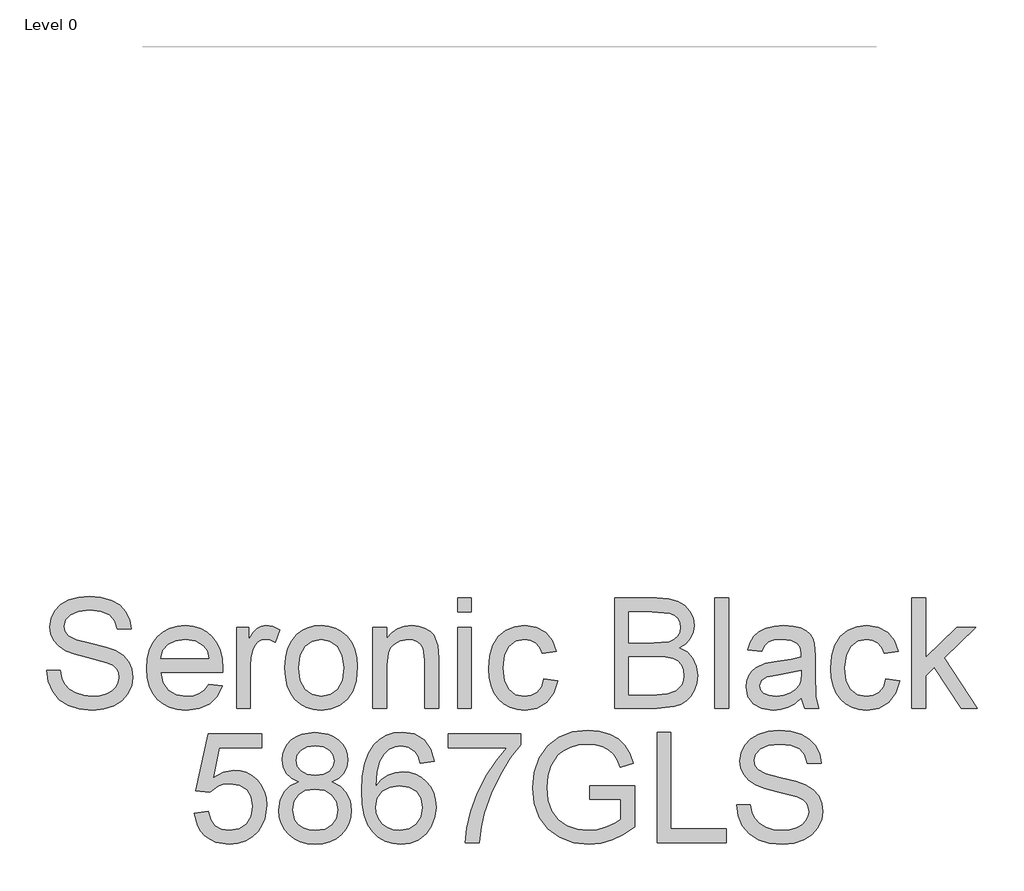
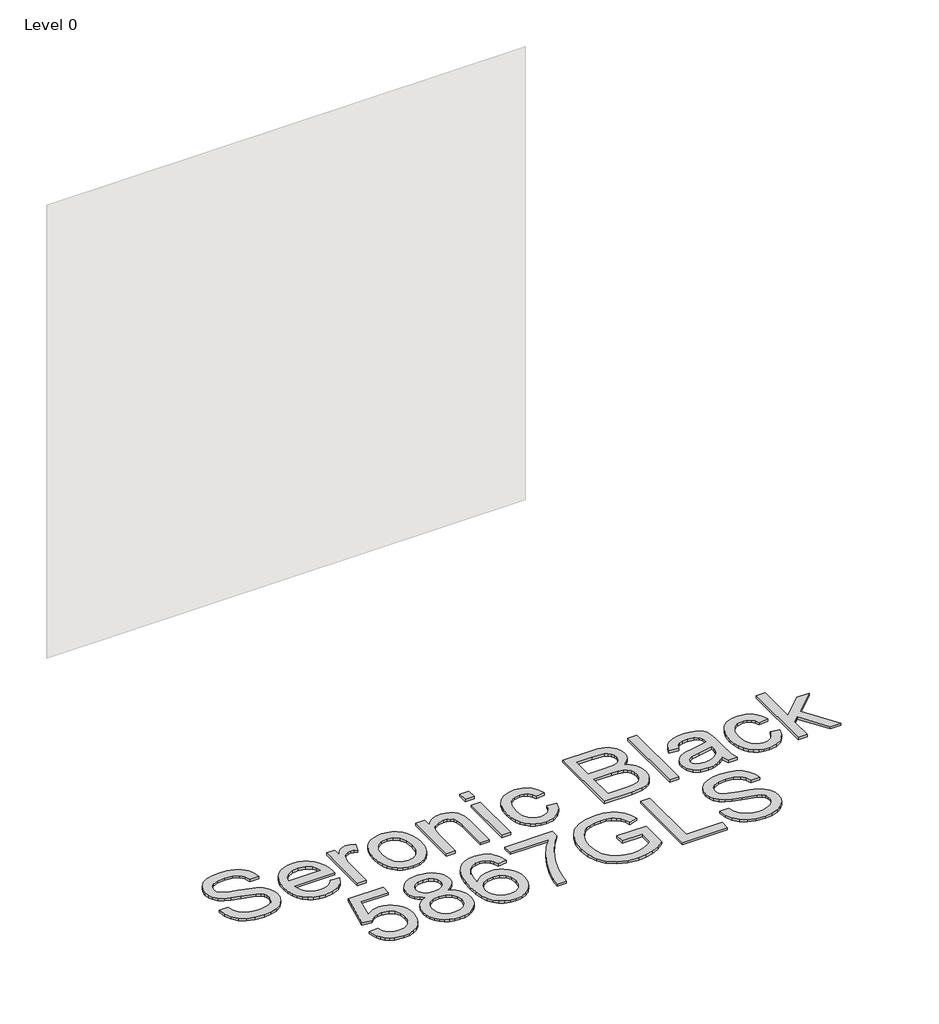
# One storey, part 2 of 29: 1 proxy.
"""IFC4 building model written with IfcOpenShell, lengths in millimetres."""

from ifc_helpers import new_model, si_unit, origin, origin_with_axes, place, context, project, spatial, polyline, outline, extrude, element, save

model = new_model("IFC4")

# Units and contexts
model_context = context("Model", 3, world=origin())
ifc_project = project(units=[si_unit("LENGTHUNIT", "METRE", prefix="MILLI")], contexts=[model_context])

# Site, building, storey
site = spatial("IfcSite", under=ifc_project)
building = spatial("IfcBuilding", under=site)
storey = spatial("IfcBuildingStorey", under=building, Name="Level 0", Elevation=0.0)

# Proxy
placement = place(None, origin())
element("IfcBuildingElementProxy", 1, Name="300mm Arial", ObjectType="300mm Arial", at=placement, inside=storey, context=model_context, shape_type="SweptSolid", body=[
    extrude(outline(polyline([(-5712.6404526, -42292.9348053), (-5674.9693363, -42292.9348053), (-5670.6467228, -42313.8396997), (-5662.8292304, -42330.6427098), (-5650.6339423, -42343.9784321), (-5633.1779416, -42354.4814631), (-5611.8407859, -42361.296477), (-5588.0020326, -42363.5681484), (-5567.0143648, -42361.8483), (-5548.6386591, -42356.688755), (-5533.7486354, -42348.5217748), (-5523.2180132, -42337.7796205), (-5516.9548223, -42325.4463766), (-5514.867092, -42312.5061274), (-5516.4305904, -42299.896972), (-5521.1210859, -42288.9984679), (-5530.6492295, -42279.7002505), (-5546.7256727, -42271.8919552), (-5601.5768782, -42257.5077691), (-5637.5833285, -42247.9888225), (-5660.6219384, -42238.9297284), (-5679.3747231, -42226.2561937), (-5692.6644602, -42210.8971204), (-5700.5831202, -42193.1836023), (-5703.2226735, -42173.4467332), (-5699.9577208, -42151.3830106), (-5690.1628627, -42130.80921), (-5674.0956165, -42113.3716034), (-5652.0134998, -42100.7164628), (-5625.507602, -42093.018532), (-5596.1690129, -42090.4525551), (-5564.3840085, -42093.1380937), (-5536.5721297, -42101.1947094), (-5513.7266578, -42114.4568553), (-5496.8408742, -42132.7589846), (-5486.1539022, -42154.960663), (-5481.9048652, -42179.9214564), (-5519.5759815, -42179.9214564), (-5526.492163, -42157.4438665), (-5540.9131372, -42141.2202705), (-5563.4459094, -42131.3978212), (-5594.6974849, -42128.1236714), (-5626.6848244, -42131.361033), (-5648.6289854, -42141.0731177), (-5661.3209142, -42155.3653332), (-5665.5515572, -42172.3430873), (-5662.5533189, -42186.8192438), (-5653.5586041, -42198.4627089), (-5632.2950248, -42208.8737694), (-5592.0487345, -42219.505559), (-5550.5148573, -42229.6039198), (-5525.388517, -42238.4146936), (-5503.9134055, -42252.0815097), (-5488.9314113, -42268.9488992), (-5480.1298346, -42288.832921), (-5477.1959756, -42311.5496342), (-5480.571293, -42334.7721852), (-5490.6972449, -42356.6151786), (-5507.1599642, -42375.4139486), (-5529.5455836, -42389.503829), (-5556.4653486, -42398.3054057), (-5586.5305046, -42401.2392647), (-5623.4382658, -42398.0754795), (-5653.8161215, -42388.584124), (-5678.0135598, -42372.72841), (-5696.3800684, -42350.4715493), (-5708.1706863, -42323.3586463), (-5712.6404526, -42292.9348053)])), origin_with_axes(), (0.0, 0.0, 1.0), 10.0),
    extrude(outline(polyline([(-5270.4462944, -42330.6059216), (-5233.510942, -42335.3148111), (-5246.8190732, -42363.1450841), (-5268.0550614, -42383.9488109), (-5296.74066, -42396.9166512), (-5332.3976223, -42401.2392647), (-5355.7719246, -42399.3745628), (-5376.5986441, -42393.7804572), (-5394.8777807, -42384.4569479), (-5410.6093345, -42371.4040349), (-5423.2598766, -42354.9850016), (-5432.2959781, -42335.5631315), (-5437.717639, -42313.1384246), (-5439.5248593, -42287.7108809), (-5437.6992449, -42261.4211139), (-5432.2224017, -42238.2491467), (-5423.0943297, -42218.1949794), (-5410.3150289, -42201.2586121), (-5394.6248618, -42187.8033281), (-5376.764191, -42178.192411), (-5356.7330163, -42172.4258607), (-5334.5313379, -42170.5036773), (-5313.0447301, -42172.4212622), (-5293.613663, -42178.1740169), (-5276.2381365, -42187.7619414), (-5260.9181507, -42201.1850357), (-5248.4124621, -42218.0846148), (-5239.4798274, -42238.1019939), (-5234.1202466, -42261.2371729), (-5232.3337197, -42287.4901518), (-5232.5544489, -42297.6436948), (-5401.853743, -42297.6436948), (-5395.3330347, -42325.8418497), (-5380.1854935, -42346.5720002), (-5358.324106, -42359.3191113), (-5331.6618584, -42363.5681484), (-5311.6122896, -42361.5999797), (-5294.726506, -42355.6954737), (-5281.0045076, -42345.4867483), (-5270.4462944, -42330.6059216)]), holes=[polyline([(-5401.853743, -42259.9725785), (-5270.004836, -42259.9725785), (-5275.1000016, -42240.0701626), (-5285.0879978, -42225.8331294), (-5307.0505529, -42212.5893775), (-5334.6784907, -42208.1747936), (-5360.0715454, -42211.6972637), (-5381.0684103, -42222.264674), (-5395.6641285, -42238.7365903), (-5401.853743, -42259.9725785)])]), origin_with_axes(), (0.0, 0.0, 1.0), 10.0),
    extrude(outline(polyline([(-5194.6626034, -42396.5303751), (-5194.6626034, -42175.2125668), (-5161.7003766, -42175.2125668), (-5161.7003766, -42207.9540644), (-5149.5234825, -42188.9713534), (-5138.3030817, -42177.7877408), (-5127.0458926, -42172.3246932), (-5114.758634, -42170.5036773), (-5095.9966522, -42173.409945), (-5076.9403649, -42182.1287483), (-5089.5219291, -42215.9003155), (-5102.765681, -42210.1061741), (-5116.0094328, -42208.1747936), (-5127.2574248, -42210.0325977), (-5137.3098003, -42215.6060099), (-5145.4307953, -42224.471966), (-5150.8846459, -42236.2074016), (-5155.4647768, -42257.2502517), (-5156.991487, -42280.2060882), (-5156.991487, -42396.5303751), (-5194.6626034, -42396.5303751)])), origin_with_axes(), (0.0, 0.0, 1.0), 10.0),
    extrude(outline(polyline([(-5062.8136963, -42285.871471), (-5060.7765497, -42257.208865), (-5054.6651101, -42232.5101876), (-5044.4793773, -42211.7754386), (-5030.2193515, -42195.0046182), (-5015.8627566, -42184.2854565), (-5000.0162397, -42176.6289125), (-4982.6798007, -42172.0349861), (-4963.8534396, -42170.5036773), (-4943.0704061, -42172.3683791), (-4924.2785339, -42177.9624847), (-4907.4778231, -42187.2859941), (-4892.6682735, -42200.3389071), (-4880.5810507, -42216.6797655), (-4871.9473201, -42235.8671108), (-4866.7670818, -42257.900943), (-4865.0403357, -42282.7812622), (-4868.0937562, -42320.8386546), (-4877.2540179, -42349.8093617), (-4892.2544063, -42371.5052024), (-4912.8282068, -42387.7379954), (-4937.2647684, -42397.8639474), (-4963.8534396, -42401.2392647), (-4984.9399757, -42399.3814606), (-5003.9065918, -42393.8080484), (-5020.7532879, -42384.519028), (-5035.480064, -42371.5143994), (-5047.4385281, -42355.014892), (-5055.9802882, -42335.2412347), (-5061.1053443, -42312.1934277), (-5062.8136963, -42285.871471)]), holes=[polyline([(-5025.14258, -42285.7978946), (-5020.7831783, -42319.8913585), (-5007.7049734, -42344.1807672), (-4988.0232867, -42358.7213031), (-4963.8534396, -42363.5681484), (-4939.7939571, -42358.6937119), (-4920.1490586, -42344.0704026), (-4907.0708536, -42319.4590971), (-4902.711452, -42284.6206722), (-4907.0984448, -42251.5204897), (-4920.2594232, -42227.5621747), (-4939.9319128, -42213.0216389), (-4963.8534396, -42208.1747936), (-4988.0232867, -42213.0032448), (-5007.7049734, -42227.4885983), (-5020.7831783, -42251.7228248), (-5025.14258, -42285.7978946)])]), origin_with_axes(), (0.0, 0.0, 1.0), 10.0),
    extrude(outline(polyline([(-4822.6603298, -42396.5303751), (-4822.6603298, -42175.2125668), (-4784.9892135, -42175.2125668), (-4784.9892135, -42206.1146544), (-4771.9018115, -42190.5348519), (-4756.1840533, -42179.4064216), (-4737.8359388, -42172.7293634), (-4716.857468, -42170.5036773), (-4698.2886243, -42172.297102), (-4681.2832791, -42177.6773762), (-4667.1014282, -42185.9731152), (-4657.0030674, -42196.5129343), (-4645.7090902, -42224.2144486), (-4643.7225274, -42260.6347661), (-4643.7225274, -42396.5303751), (-4681.3936437, -42396.5303751), (-4681.3936437, -42265.7115376), (-4685.7346512, -42232.3814289), (-4691.7403248, -42222.4578121), (-4701.0753304, -42214.7598813), (-4713.0406923, -42209.8210655), (-4726.9374347, -42208.1747936), (-4749.0011573, -42211.8720076), (-4767.8091243, -42222.9636498), (-4775.3254134, -42232.0181454), (-4780.6941912, -42244.392776), (-4784.9892135, -42279.1024423), (-4784.9892135, -42396.5303751), (-4822.6603298, -42396.5303751)])), origin_with_axes(), (0.0, 0.0, 1.0), 10.0),
    extrude(outline(polyline([(-4591.9247425, -42132.832561), (-4591.9247425, -42095.1614447), (-4554.2536261, -42095.1614447), (-4554.2536261, -42132.832561), (-4591.9247425, -42132.832561)])), origin_with_axes(), (0.0, 0.0, 1.0), 10.0),
    extrude(outline(polyline([(-4591.9247425, -42396.5303751), (-4591.9247425, -42175.2125668), (-4554.2536261, -42175.2125668), (-4554.2536261, -42396.5303751), (-4591.9247425, -42396.5303751)])), origin_with_axes(), (0.0, 0.0, 1.0), 10.0),
    extrude(outline(polyline([(-4356.4802655, -42316.479253), (-4318.8091492, -42321.1881425), (-4329.3121802, -42354.6929952), (-4349.0490492, -42380.0124735), (-4376.1619523, -42395.9325669), (-4408.7930853, -42401.2392647), (-4429.9210081, -42399.3883584), (-4448.8646316, -42393.8356395), (-4465.6239557, -42384.5811081), (-4480.1989805, -42371.624764), (-4491.9964963, -42355.2103293), (-4500.4232932, -42335.5815256), (-4505.4793714, -42312.7383529), (-4507.1647308, -42286.6808114), (-4504.2860542, -42253.1575646), (-4495.6500243, -42224.104084), (-4481.1186855, -42200.6424097), (-4460.554082, -42183.8945819), (-4435.9519736, -42173.8514034), (-4409.30812, -42170.5036773), (-4377.4771304, -42175.1022022), (-4352.0288934, -42188.897777), (-4333.7727494, -42211.1546378), (-4323.5180388, -42241.1370204), (-4361.1891551, -42245.8459099), (-4368.0225631, -42229.4107818), (-4378.6635499, -42217.6293609), (-4392.523504, -42210.5384354), (-4409.0138145, -42208.1747936), (-4433.3584055, -42212.8285008), (-4452.6814073, -42226.7896225), (-4465.2905627, -42250.8123168), (-4469.4936145, -42285.6507418), (-4465.3825332, -42320.9582163), (-4453.0492893, -42345.063684), (-4434.0757754, -42358.9420323), (-4410.043884, -42363.5681484), (-4390.5369412, -42360.6802747), (-4374.5432715, -42352.0166537), (-4362.9090034, -42337.3565562), (-4356.4802655, -42316.479253)])), origin_with_axes(), (0.0, 0.0, 1.0), 10.0),
    extrude(outline(polyline([(-4163.4157945, -42396.5303751), (-4163.4157945, -42095.1614447), (-4048.4158828, -42095.1614447), (-4016.7872282, -42097.3779337), (-3992.0931493, -42104.0274008), (-3973.1656207, -42115.2753928), (-3958.836617, -42131.2874566), (-3949.814311, -42150.1230148), (-3946.8068757, -42169.8414897), (-3949.3360644, -42187.9872691), (-3956.9236306, -42205.0477966), (-3969.6247565, -42219.9746086), (-3987.4946244, -42231.7192413), (-3966.1482716, -42242.8660657), (-3950.3753311, -42259.8254257), (-3940.6356552, -42281.4752811), (-3937.3890966, -42306.6935919), (-3939.6055857, -42327.7088509), (-3946.2550527, -42347.1973996), (-3956.1786695, -42363.7704835), (-3968.2176078, -42376.039348), (-3982.9604788, -42384.9236982), (-4000.9958936, -42391.343239), (-4049.2987996, -42396.5303751), (-4163.4157945, -42396.5303751)]), holes=[polyline([(-4125.7446782, -42217.5925727), (-4056.9507451, -42217.5925727), (-4016.7780312, -42214.3552111), (-4002.7157419, -42208.7726018), (-3992.6081841, -42200.4124835), (-3986.51054, -42189.4036148), (-3984.477992, -42175.8747544), (-3986.3725843, -42162.7413672), (-3992.0563611, -42151.3002371), (-4001.2718051, -42142.3699017), (-4013.7613988, -42136.7688983), (-4062.1746694, -42132.832561), (-4125.7446782, -42132.832561), (-4125.7446782, -42217.5925727)]), polyline([(-4125.7446782, -42358.8592588), (-4048.4894592, -42358.8592588), (-4020.5304275, -42357.3877308), (-3996.8756153, -42349.1839623), (-3981.2038423, -42332.4453316), (-3976.5961203, -42320.6179254), (-3975.0602129, -42307.0614739), (-3976.8628347, -42291.3161245), (-3982.2707, -42277.7780671), (-3991.7160703, -42267.1922627), (-4005.6312067, -42260.3036723), (-4025.3404846, -42256.5236848), (-4052.1682791, -42255.263689), (-4125.7446782, -42255.263689), (-4125.7446782, -42358.8592588)])]), origin_with_axes(), (0.0, 0.0, 1.0), 10.0),
    extrude(outline(polyline([(-3890.3002013, -42396.5303751), (-3890.3002013, -42095.1614447), (-3852.6290849, -42095.1614447), (-3852.6290849, -42396.5303751), (-3890.3002013, -42396.5303751)])), origin_with_axes(), (0.0, 0.0, 1.0), 10.0),
    extrude(outline(polyline([(-3654.8557243, -42368.2770379), (-3672.854351, -42383.7096876), (-3691.3864065, -42393.8080484), (-3710.8749552, -42399.3814606), (-3731.7430613, -42401.2392647), (-3763.2245631, -42396.7694984), (-3786.447114, -42383.3601997), (-3800.7669207, -42362.9979313), (-3805.5401896, -42337.6692559), (-3803.7375678, -42322.0526652), (-3798.3297025, -42307.8708143), (-3789.9879782, -42295.7307084), (-3779.3837797, -42286.239353), (-3753.0066407, -42273.8785179), (-3720.4122959, -42268.2131352), (-3681.895051, -42262.2534469), (-3655.0764535, -42255.263689), (-3654.8557243, -42246.8759795), (-3657.4492924, -42230.0637723), (-3665.2299966, -42219.0641006), (-3682.630815, -42210.8971204), (-3706.8742385, -42208.1747936), (-3729.3150402, -42209.9866124), (-3744.9868132, -42215.4220689), (-3755.6737851, -42225.4744444), (-3763.1601837, -42241.1370204), (-3800.8313, -42236.4281308), (-3794.2921976, -42215.8267391), (-3784.5341276, -42199.6399313), (-3770.6465823, -42187.2607022), (-3751.7190537, -42178.0820464), (-3728.5700791, -42172.3982696), (-3702.0181961, -42170.5036773), (-3676.551565, -42172.1775404), (-3656.3640405, -42177.1991296), (-3641.142923, -42184.7499075), (-3630.5755127, -42194.0113368), (-3623.5673607, -42205.4616639), (-3619.024018, -42219.5791354), (-3617.184608, -42252.5413622), (-3617.184608, -42299.4095284), (-3615.2716217, -42364.8557353), (-3607.766829, -42396.5303751), (-3645.4379453, -42396.5303751), (-3654.8557243, -42368.2770379)]), holes=[polyline([(-3654.8557243, -42292.9348053), (-3715.6298299, -42304.4862999), (-3748.0402337, -42310.593141), (-3762.7187253, -42320.5259549), (-3767.8690733, -42335.0205055), (-3765.063973, -42346.2225123), (-3756.6486724, -42355.4011681), (-3742.8071123, -42361.5264033), (-3723.7232338, -42363.5681484), (-3703.4897241, -42361.3148711), (-3685.6106591, -42354.5550395), (-3671.1161085, -42344.5946345), (-3661.0361419, -42332.7396372), (-3656.5663756, -42320.5259549), (-3655.0764535, -42303.6033831), (-3654.8557243, -42292.9348053)])]), origin_with_axes(), (0.0, 0.0, 1.0), 10.0),
    extrude(outline(polyline([(-3424.120137, -42316.479253), (-3386.4490207, -42321.1881425), (-3396.9520516, -42354.6929952), (-3416.6889207, -42380.0124735), (-3443.8018237, -42395.9325669), (-3476.4329567, -42401.2392647), (-3497.5608795, -42399.3883584), (-3516.504503, -42393.8356395), (-3533.2638271, -42384.5811081), (-3547.8388519, -42371.624764), (-3559.6363677, -42355.2103293), (-3568.0631646, -42335.5815256), (-3573.1192428, -42312.7383529), (-3574.8046022, -42286.6808114), (-3571.9259256, -42253.1575646), (-3563.2898957, -42224.104084), (-3548.7585569, -42200.6424097), (-3528.1939534, -42183.8945819), (-3503.591845, -42173.8514034), (-3476.9479915, -42170.5036773), (-3445.1170018, -42175.1022022), (-3419.6687648, -42188.897777), (-3401.4126208, -42211.1546378), (-3391.1579102, -42241.1370204), (-3428.8290265, -42245.8459099), (-3435.6624346, -42229.4107818), (-3446.3034213, -42217.6293609), (-3460.1633754, -42210.5384354), (-3476.6536859, -42208.1747936), (-3500.9982769, -42212.8285008), (-3520.3212787, -42226.7896225), (-3532.9304341, -42250.8123168), (-3537.1334859, -42285.6507418), (-3533.0224046, -42320.9582163), (-3520.6891607, -42345.063684), (-3501.7156468, -42358.9420323), (-3477.6837555, -42363.5681484), (-3458.1768127, -42360.6802747), (-3442.1831429, -42352.0166537), (-3430.5488748, -42337.3565562), (-3424.120137, -42316.479253)])), origin_with_axes(), (0.0, 0.0, 1.0), 10.0),
    extrude(outline(polyline([(-3353.4867939, -42396.5303751), (-3353.4867939, -42095.1614447), (-3315.8156776, -42095.1614447), (-3315.8156776, -42257.1030989), (-3231.3499715, -42175.2125668), (-3179.257881, -42175.2125668), (-3264.7536567, -42258.1331685), (-3174.5489914, -42396.5303751), (-3218.5476781, -42396.5303751), (-3291.7561951, -42284.3263666), (-3315.8156776, -42307.6500851), (-3315.8156776, -42396.5303751), (-3353.4867939, -42396.5303751)])), origin_with_axes(), (0.0, 0.0, 1.0), 10.0),
    extrude(outline(polyline([(-5310.030397, -42682.4037065), (-5272.3592807, -42677.694817), (-5265.4430992, -42700.3103626), (-5253.3765698, -42716.5063675), (-5236.2148747, -42726.2460433), (-5214.0131963, -42729.4926019), (-5187.0106579, -42724.9768504), (-5166.7771481, -42711.4295959), (-5154.1404016, -42690.414337), (-5149.9281527, -42663.494572), (-5153.8736871, -42638.1475025), (-5165.7102903, -42618.7601213), (-5185.5299328, -42606.4544686), (-5213.4245851, -42602.3525844), (-5231.6991232, -42603.9896592), (-5246.4971765, -42608.9008839), (-5267.6503912, -42625.897032), (-5305.3215075, -42621.1881425), (-5272.3592807, -42465.7947877), (-5126.383705, -42465.7947877), (-5126.383705, -42503.4659041), (-5241.8986515, -42503.4659041), (-5258.0118829, -42586.4600822), (-5231.101315, -42570.1261216), (-5202.90316, -42564.681468), (-5184.5573448, -42566.3691267), (-5167.7060502, -42571.4321027), (-5152.3492761, -42579.8703959), (-5138.4870227, -42591.6840065), (-5127.0114037, -42606.150966), (-5118.814533, -42622.5493059), (-5113.8964106, -42640.8790263), (-5112.2570364, -42661.1401272), (-5118.1615425, -42698.8112435), (-5125.542175, -42715.6050566), (-5135.8750605, -42731.0377063), (-5151.5284394, -42746.8428365), (-5169.7937805, -42758.1322152), (-5190.6710837, -42764.9058424), (-5214.1603491, -42767.1637182), (-5251.1600808, -42761.3603797), (-5266.8387515, -42754.1062066), (-5280.6366256, -42743.9503643), (-5292.1168431, -42731.3986905), (-5300.8425442, -42716.9570229), (-5310.030397, -42682.4037065)])), origin_with_axes(), (0.0, 0.0, 1.0), 10.0),
    extrude(outline(polyline([(-5024.406816, -42596.4664724), (-5044.5759464, -42586.5336586), (-5058.7302061, -42573.0691775), (-5067.0903245, -42556.3489409), (-5069.8770306, -42536.64886), (-5068.3595174, -42521.2851882), (-5063.8069777, -42507.1999063), (-5056.2194115, -42494.3930143), (-5045.5968189, -42482.8645123), (-5032.4496361, -42473.3363686), (-5017.2882994, -42466.5305517), (-4980.9231642, -42461.0858982), (-4944.3372997, -42466.6593104), (-4929.0104161, -42473.6260757), (-4915.6608982, -42483.3795471), (-4904.8451676, -42495.1333769), (-4897.1196457, -42508.1012172), (-4892.4843325, -42522.2830681), (-4890.9392281, -42537.6789296), (-4893.689146, -42556.744414), (-4901.9388998, -42573.1795421), (-4915.7804599, -42586.5612497), (-4935.3057968, -42596.4664724), (-4912.120034, -42608.4134402), (-4895.2434475, -42626.0073966), (-4884.9519487, -42648.4022131), (-4881.5214491, -42674.751761), (-4883.2229033, -42693.5413339), (-4888.327266, -42710.7674083), (-4896.8345371, -42726.4299843), (-4908.7447167, -42740.5290617), (-4923.4324054, -42752.1817239), (-4940.2722037, -42760.5050541), (-4959.2641117, -42765.4990522), (-4980.4081294, -42767.1637182), (-5001.552147, -42765.4921544), (-5020.544055, -42760.4774629), (-5037.3838534, -42752.1196439), (-5052.071542, -42740.4186971), (-5063.9817216, -42726.2207514), (-5072.4889928, -42710.3719352), (-5077.5933554, -42692.8722485), (-5079.2948097, -42673.7216914), (-5075.7263543, -42646.351271), (-5065.0209883, -42623.8368929), (-5047.7305345, -42606.9511093), (-5024.406816, -42596.4664724)]), holes=[polyline([(-5041.6236934, -42672.3973162), (-5035.3329112, -42700.7610181), (-5026.623305, -42712.9287151), (-5013.0760505, -42721.9878092), (-4996.8524545, -42727.6164037), (-4980.1138238, -42729.4926019), (-4954.4724487, -42725.5470675), (-4935.2322204, -42713.7104643), (-4923.2024791, -42695.7854141), (-4919.1925654, -42673.5745386), (-4923.3312378, -42650.9865841), (-4935.7472551, -42632.6660608), (-4955.4289419, -42620.5259549), (-4981.3646225, -42616.479253), (-5006.6473127, -42620.4707726), (-5025.694403, -42632.4453316), (-5037.6413708, -42650.416367), (-5041.6236934, -42672.3973162)]), polyline([(-5032.2059143, -42537.752506), (-5028.8673852, -42554.1968312), (-5018.8517979, -42567.3302184), (-5002.4534579, -42575.9386571), (-4979.966671, -42578.8081367), (-4958.0041159, -42575.9570512), (-4941.8540963, -42567.4037948), (-4931.9212824, -42554.711866), (-4928.6103444, -42539.4447632), (-4932.031647, -42523.5982462), (-4942.2955547, -42510.4924502), (-4958.6663034, -42501.6908734), (-4980.4081294, -42498.7570145), (-5002.287911, -42501.6264941), (-5018.6310687, -42510.2349328), (-5028.8122029, -42522.8532852), (-5032.2059143, -42537.752506)])]), origin_with_axes(), (0.0, 0.0, 1.0), 10.0),
    extrude(outline(polyline([(-4655.4947512, -42541.1370204), (-4693.1658675, -42545.8459099), (-4699.2359204, -42527.1758986), (-4707.4396889, -42514.4287875), (-4724.5278076, -42502.6749578), (-4745.1843816, -42498.7570145), (-4762.6955646, -42501.0378829), (-4779.176678, -42507.880488), (-4793.3309378, -42522.2922652), (-4804.8916295, -42542.1303017), (-4812.6999248, -42570.1905009), (-4815.5969955, -42609.2687659), (-4800.4862426, -42591.6380212), (-4782.3772514, -42579.2128069), (-4762.2816974, -42571.8459699), (-4741.2112561, -42569.3903576), (-4723.1114619, -42571.0688192), (-4706.4096194, -42576.104204), (-4691.1057284, -42584.496512), (-4677.1997889, -42596.2457432), (-4665.6436958, -42610.6529219), (-4657.3893435, -42627.0190721), (-4652.4367321, -42645.344194), (-4650.7858617, -42665.6282875), (-4653.8944645, -42692.6032348), (-4663.2202731, -42717.6100134), (-4677.9907352, -42738.8184105), (-4697.4332987, -42754.398213), (-4720.6650467, -42763.9723419), (-4746.8030624, -42767.1637182), (-4769.259959, -42765.0483967), (-4789.5417532, -42758.7024323), (-4807.6484452, -42748.1258249), (-4823.5800348, -42733.3185746), (-4836.5685685, -42713.655282), (-4845.8460926, -42688.5105476), (-4851.412607, -42657.8843715), (-4853.2681118, -42621.7767537), (-4851.2079727, -42581.2959387), (-4845.0275551, -42546.7472208), (-4834.7268593, -42518.1306001), (-4820.3058851, -42495.4460766), (-4804.6754988, -42480.4134985), (-4786.552712, -42469.6759428), (-4765.9375247, -42463.2334094), (-4742.8299369, -42461.0858982), (-4709.7757396, -42466.401793), (-4683.3066301, -42482.3494775), (-4664.7653775, -42507.6781529), (-4655.4947512, -42541.1370204)]), holes=[polyline([(-4815.5969955, -42665.0396763), (-4813.4172947, -42681.7323219), (-4806.8781922, -42697.6708093), (-4796.7246492, -42711.3744136), (-4783.7016265, -42721.3624098), (-4767.9838683, -42727.4600539), (-4749.7461184, -42729.4926019), (-4724.8864926, -42725.280353), (-4705.3427616, -42712.6436065), (-4692.6784239, -42692.7779788), (-4688.456978, -42666.8790863), (-4692.6232416, -42642.0194605), (-4705.1220324, -42623.0643407), (-4724.9968572, -42611.0621906), (-4751.2912228, -42607.0614739), (-4776.1140604, -42611.0621906), (-4796.871802, -42623.0643407), (-4810.9156971, -42641.559608), (-4815.5969955, -42665.0396763)])]), origin_with_axes(), (0.0, 0.0, 1.0), 10.0),
    extrude(outline(polyline([(-4617.8236349, -42503.4659041), (-4617.8236349, -42465.7947877), (-4420.0502743, -42465.7947877), (-4420.0502743, -42496.2554169), (-4448.2392322, -42531.9307734), (-4476.1522786, -42577.2998205), (-4500.7727811, -42628.2238857), (-4519.0841074, -42680.5642965), (-4528.0604281, -42719.7253349), (-4533.0636232, -42762.4548287), (-4570.7347395, -42762.4548287), (-4566.6604464, -42723.6248841), (-4555.7619423, -42677.4740878), (-4538.3335328, -42628.5549795), (-4514.6695235, -42581.4200988), (-4487.0415856, -42538.8101667), (-4457.7213906, -42503.4659041), (-4617.8236349, -42503.4659041)])), origin_with_axes(), (0.0, 0.0, 1.0), 10.0),
    extrude(outline(polyline([(-4231.6946928, -42644.7325902), (-4231.6946928, -42607.0614739), (-4109.2635648, -42607.0614739), (-4109.2635648, -42719.7069408), (-4139.0160211, -42740.400303), (-4169.7065766, -42755.2443416), (-4201.2616547, -42764.183874), (-4233.6076792, -42767.1637182), (-4275.8681233, -42762.4272375), (-4314.0634715, -42748.2177954), (-4345.7932936, -42725.0320327), (-4368.6571596, -42693.36659), (-4382.4803256, -42655.382774), (-4387.0880475, -42613.2418914), (-4382.4987197, -42570.7975062), (-4368.730736, -42531.3145711), (-4346.3543136, -42498.1959945), (-4315.9396697, -42474.8446848), (-4278.8939528, -42460.9939277), (-4236.6243115, -42456.3770087), (-4205.5934652, -42459.0533502), (-4177.6896159, -42467.0823747), (-4154.1911534, -42479.8846682), (-4136.3764678, -42496.8808163), (-4123.1970954, -42518.8893567), (-4113.6045723, -42546.7288267), (-4148.3326327, -42556.5144878), (-4156.0857457, -42536.6580571), (-4165.5127218, -42521.6760628), (-4177.9839215, -42510.3820856), (-4194.8697051, -42501.5897059), (-4215.0020472, -42495.9335202), (-4237.2129227, -42494.048125), (-4263.2129827, -42496.080673), (-4285.4422523, -42502.1783171), (-4303.8179579, -42511.577702), (-4318.2573262, -42523.5154728), (-4337.6447074, -42552.5413622), (-4346.4738753, -42580.9786404), (-4349.4169312, -42611.696787), (-4345.876067, -42647.7216314), (-4335.2534744, -42677.3637232), (-4317.8710501, -42700.4115302), (-4294.050691, -42716.6535203), (-4266.1744328, -42726.2828315), (-4236.6243115, -42729.4926019), (-4210.532281, -42727.0737778), (-4185.084044, -42719.8173054), (-4162.9835331, -42709.8201122), (-4146.9346811, -42699.1791255), (-4146.9346811, -42644.7325902), (-4231.6946928, -42644.7325902)])), origin_with_axes(), (0.0, 0.0, 1.0), 10.0),
    extrude(outline(polyline([(-4048.0480008, -42762.4548287), (-4048.0480008, -42461.0858982), (-4010.3768845, -42461.0858982), (-4010.3768845, -42724.7837124), (-3859.6924193, -42724.7837124), (-3859.6924193, -42762.4548287), (-4048.0480008, -42762.4548287)])), origin_with_axes(), (0.0, 0.0, 1.0), 10.0),
    extrude(outline(polyline([(-3831.439082, -42658.8592588), (-3793.7679657, -42658.8592588), (-3789.4453523, -42679.7641532), (-3781.6278599, -42696.5671633), (-3769.4325717, -42709.9028856), (-3751.9765711, -42720.4059166), (-3730.6394153, -42727.2209306), (-3706.8006621, -42729.4926019), (-3685.8129942, -42727.7727536), (-3667.4372886, -42722.6132086), (-3652.5472648, -42714.4462283), (-3642.0166427, -42703.704074), (-3635.7534517, -42691.3708301), (-3633.6657214, -42678.430581), (-3635.2292199, -42665.8214256), (-3639.9197153, -42654.9229215), (-3649.447859, -42645.624704), (-3665.5243022, -42637.8164087), (-3720.3755077, -42623.4322227), (-3756.381958, -42613.9132761), (-3779.4205679, -42604.8541819), (-3798.1733526, -42592.1806472), (-3811.4630897, -42576.8215739), (-3819.3817496, -42559.1080558), (-3822.0213029, -42539.3711868), (-3818.7563502, -42517.3074641), (-3808.9614921, -42496.7336635), (-3792.894246, -42479.296057), (-3770.8121292, -42466.6409163), (-3744.3062315, -42458.9429856), (-3714.9676424, -42456.3770087), (-3683.182638, -42459.0625472), (-3655.3707591, -42467.1191629), (-3632.5252872, -42480.3813089), (-3615.6395037, -42498.6834381), (-3604.9525317, -42520.8851165), (-3600.7034947, -42545.8459099), (-3638.374611, -42545.8459099), (-3645.2907925, -42523.36832), (-3659.7117667, -42507.144724), (-3682.2445389, -42497.3222747), (-3713.4961144, -42494.048125), (-3745.4834539, -42497.2854865), (-3767.4276149, -42506.9975712), (-3780.1195437, -42521.2897867), (-3784.3501866, -42538.2675408), (-3781.3519484, -42552.7436973), (-3772.3572336, -42564.3871625), (-3751.0936543, -42574.7982229), (-3710.847364, -42585.4300126), (-3669.3134868, -42595.5283733), (-3644.1871465, -42604.3391471), (-3622.712035, -42618.0059633), (-3607.7300408, -42634.8733527), (-3598.928464, -42654.7573746), (-3595.9946051, -42677.4740878), (-3599.3699224, -42700.6966387), (-3609.4958743, -42722.5396322), (-3625.9585936, -42741.3384021), (-3648.344213, -42755.4282825), (-3675.263978, -42764.2298593), (-3705.3291341, -42767.1637182), (-3742.2368952, -42763.999933), (-3772.614751, -42754.5085776), (-3796.8121892, -42738.6528636), (-3815.1786978, -42716.3960029), (-3826.9693158, -42689.2830998), (-3831.439082, -42658.8592588)])), origin_with_axes(), (0.0, 0.0, 1.0), 10.0),
])

save(model, "model.ifc")
